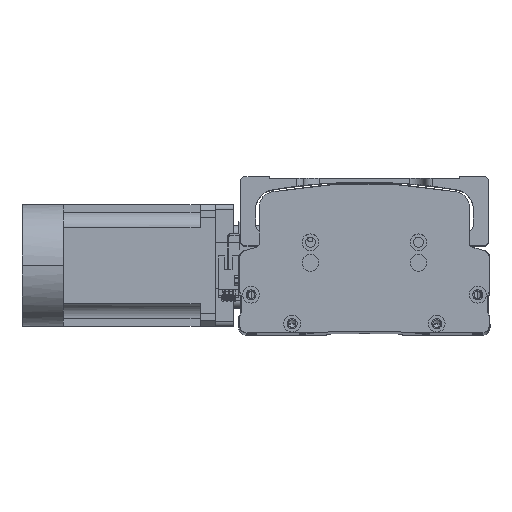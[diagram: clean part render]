
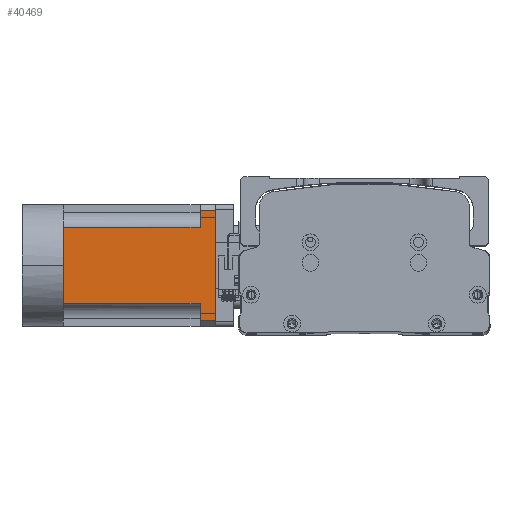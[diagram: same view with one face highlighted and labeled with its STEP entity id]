
A CAD part, top view. The second image highlights one B-rep face of the part: STEP entity #40469.
In plain terms, the highlighted planar face has unit normal (0, -0.003, 1) as drawn and (0, 0, -1) by its records, which use the part's own axes.
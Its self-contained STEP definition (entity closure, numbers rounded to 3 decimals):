
#1768 = VECTOR ( 'NONE', #38118, 1000. ) ;
#2537 = ORIENTED_EDGE ( 'NONE', *, *, #36250, .T. ) ;
#2810 = DIRECTION ( 'NONE',  ( 0., -1., 0. ) ) ;
#3642 = DIRECTION ( 'NONE',  ( 0., 1., 0. ) ) ;
#4034 = LINE ( 'NONE', #43671, #41924 ) ;
#4434 = CARTESIAN_POINT ( 'NONE',  ( 0., 0., -40. ) ) ;
#4679 = CARTESIAN_POINT ( 'NONE',  ( -40., -27., -40. ) ) ;
#4782 = VERTEX_POINT ( 'NONE', #32516 ) ;
#5072 = CARTESIAN_POINT ( 'NONE',  ( -40., 0., -40. ) ) ;
#5759 = LINE ( 'NONE', #22783, #33835 ) ;
#5964 = CARTESIAN_POINT ( 'NONE',  ( -25., 90., -40. ) ) ;
#6098 = VECTOR ( 'NONE', #42366, 1000. ) ;
#8526 = EDGE_CURVE ( 'NONE', #11850, #20058, #4034, .T. ) ;
#8875 = DIRECTION ( 'NONE',  ( -1., 0., 0. ) ) ;
#10058 = VECTOR ( 'NONE', #3642, 1000. ) ;
#10275 = ORIENTED_EDGE ( 'NONE', *, *, #28119, .T. ) ;
#10813 = LINE ( 'NONE', #13732, #19454 ) ;
#10924 = ORIENTED_EDGE ( 'NONE', *, *, #47147, .T. ) ;
#11002 = VERTEX_POINT ( 'NONE', #21320 ) ;
#11011 = ORIENTED_EDGE ( 'NONE', *, *, #8526, .T. ) ;
#11130 = CARTESIAN_POINT ( 'NONE',  ( 25., 0., -40. ) ) ;
#11546 = LINE ( 'NONE', #5072, #1768 ) ;
#11569 = DIRECTION ( 'NONE',  ( -1., 0., 0. ) ) ;
#11850 = VERTEX_POINT ( 'NONE', #5964 ) ;
#12146 = CARTESIAN_POINT ( 'NONE',  ( -36., -27., -40. ) ) ;
#12796 = VECTOR ( 'NONE', #26916, 1000. ) ;
#13197 = EDGE_CURVE ( 'NONE', #20058, #35859, #32308, .T. ) ;
#13732 = CARTESIAN_POINT ( 'NONE',  ( 36., -27., -40. ) ) ;
#17586 = CARTESIAN_POINT ( 'NONE',  ( 36., 100., -40. ) ) ;
#17954 = CARTESIAN_POINT ( 'NONE',  ( 25., 90., -40. ) ) ;
#18060 = DIRECTION ( 'NONE',  ( -1., 0., 0. ) ) ;
#18426 = CARTESIAN_POINT ( 'NONE',  ( -25., -27., -40. ) ) ;
#19454 = VECTOR ( 'NONE', #2810, 1000. ) ;
#19605 = PLANE ( 'NONE',  #35271 ) ;
#20058 = VERTEX_POINT ( 'NONE', #24764 ) ;
#20972 = LINE ( 'NONE', #18426, #10058 ) ;
#21320 = CARTESIAN_POINT ( 'NONE',  ( 36., 90., -40. ) ) ;
#21932 = VERTEX_POINT ( 'NONE', #17954 ) ;
#22465 = ORIENTED_EDGE ( 'NONE', *, *, #13197, .T. ) ;
#22783 = CARTESIAN_POINT ( 'NONE',  ( -40., 90., -40. ) ) ;
#24263 = EDGE_CURVE ( 'NONE', #42824, #11002, #10813, .T. ) ;
#24674 = DIRECTION ( 'NONE',  ( 0., -1., 0. ) ) ;
#24764 = CARTESIAN_POINT ( 'NONE',  ( -36., 90., -40. ) ) ;
#25067 = VECTOR ( 'NONE', #24674, 1000. ) ;
#25083 = EDGE_CURVE ( 'NONE', #42824, #35859, #41439, .T. ) ;
#26508 = EDGE_CURVE ( 'NONE', #11002, #21932, #5759, .T. ) ;
#26916 = DIRECTION ( 'NONE',  ( 0., 1., 0. ) ) ;
#28119 = EDGE_CURVE ( 'NONE', #21932, #45884, #33660, .T. ) ;
#28419 = VERTEX_POINT ( 'NONE', #4434 ) ;
#28953 = FACE_OUTER_BOUND ( 'NONE', #39698, .T. ) ;
#30828 = DIRECTION ( 'NONE',  ( 0., 0., -1. ) ) ;
#31465 = CARTESIAN_POINT ( 'NONE',  ( -40., 0., -40. ) ) ;
#31470 = ORIENTED_EDGE ( 'NONE', *, *, #25083, .F. ) ;
#31692 = VECTOR ( 'NONE', #11569, 1000. ) ;
#32173 = EDGE_CURVE ( 'NONE', #45884, #28419, #35313, .T. ) ;
#32308 = LINE ( 'NONE', #12146, #12796 ) ;
#32516 = CARTESIAN_POINT ( 'NONE',  ( -25., 0., -40. ) ) ;
#33304 = ORIENTED_EDGE ( 'NONE', *, *, #26508, .T. ) ;
#33528 = CARTESIAN_POINT ( 'NONE',  ( -40., 100., -40. ) ) ;
#33585 = ORIENTED_EDGE ( 'NONE', *, *, #32173, .T. ) ;
#33660 = LINE ( 'NONE', #46666, #25067 ) ;
#33835 = VECTOR ( 'NONE', #41244, 1000. ) ;
#35271 = AXIS2_PLACEMENT_3D ( 'NONE', #4679, #30828, #8875 ) ;
#35313 = LINE ( 'NONE', #31465, #6098 ) ;
#35859 = VERTEX_POINT ( 'NONE', #47141 ) ;
#36250 = EDGE_CURVE ( 'NONE', #28419, #4782, #11546, .T. ) ;
#38118 = DIRECTION ( 'NONE',  ( -1., 0., 0. ) ) ;
#39698 = EDGE_LOOP ( 'NONE', ( #31470, #43878, #33304, #10275, #33585, #2537, #10924, #11011, #22465 ) ) ;
#40469 = ADVANCED_FACE ( 'NONE', ( #28953 ), #19605, .T. ) ;
#41244 = DIRECTION ( 'NONE',  ( -1., 0., 0. ) ) ;
#41439 = LINE ( 'NONE', #33528, #31692 ) ;
#41924 = VECTOR ( 'NONE', #18060, 1000. ) ;
#42366 = DIRECTION ( 'NONE',  ( -1., 0., 0. ) ) ;
#42824 = VERTEX_POINT ( 'NONE', #17586 ) ;
#43671 = CARTESIAN_POINT ( 'NONE',  ( -40., 90., -40. ) ) ;
#43878 = ORIENTED_EDGE ( 'NONE', *, *, #24263, .T. ) ;
#45884 = VERTEX_POINT ( 'NONE', #11130 ) ;
#46666 = CARTESIAN_POINT ( 'NONE',  ( 25., -27., -40. ) ) ;
#47141 = CARTESIAN_POINT ( 'NONE',  ( -36., 100., -40. ) ) ;
#47147 = EDGE_CURVE ( 'NONE', #4782, #11850, #20972, .T. ) ;
